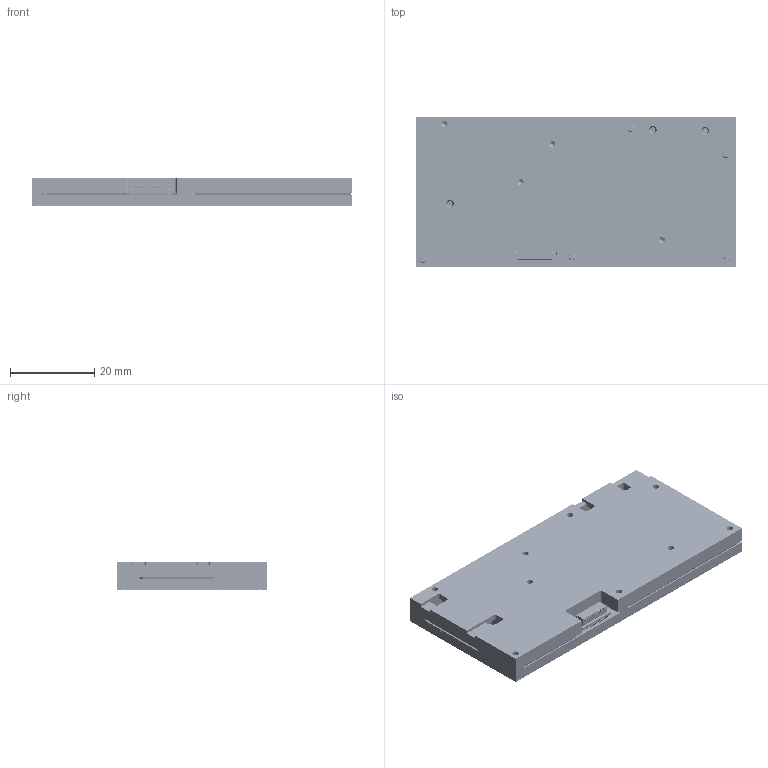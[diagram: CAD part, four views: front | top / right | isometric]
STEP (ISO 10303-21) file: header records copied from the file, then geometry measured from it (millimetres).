
FILE_DESCRIPTION(('FreeCAD Model'),'2;1');
FILE_NAME('C:/Users/Daniel/Dropbox (Atlanta Micro)/Designs/AM9030 0.1 - 18 GHz Transmit/Mechanical/Customer 3D Model/AM9030 Mechanical Model.step', '2021-11-22T15:56:30',('Author'),(''), 'Open CASCADE STEP processor 7.3','FreeCAD','Unknown');
FILE_SCHEMA(('AUTOMOTIVE_DESIGN { 1 0 10303 214 1 1 1 1 }'));
Length unit declared in the file: millimetre
Products named in the file (22): Flat_Head_1-72_5_16_Screw_014; Flat_Head_1-72_5_16_Screw_009; Flat_Head_1-72_5_16_Screw_012; Flat_Head_1-72_5_16_Screw_007; Flat_Head_1-72_5_16_Screw_018; Flat_Head_1-72_5_16_Screw_013; Flat_Head_1-72_5_16_Screw_008; Flat_Head_1-72_5_16_Screw_010; Flat_Head_1-72_5_16_Screw_017; Flat_Head_1-72_5_16_Screw_019; Flat_Head_1-72_5_16_Screw_015; Flat_Head_1-72_5_16_Screw_011; Flat_Head_1-72_5_16_Screw_016; Bottom_Cover_001; AMPCB9030_Rev11_001; Flat_Head_1-72_5_16_Screw_001; Flat_Head_1-72_5_16_Screw_003; Flat_Head_1-72_5_16_Screw_004; Flat_Head_1-72_5_16_Screw_006; Top_Cover_001; Flat_Head_1-72_5_16_Screw_005; Flat_Head_1-72_5_16_Screw_002
Bounding box: 76.29 x 35.74 x 6.73 mm (x, y, z)
Volume: 3738.9 mm3; surface area: 25921.1 mm2
Topology: 63 solids, 79 shells, 5342 faces, 20000 edges, 14833 vertices
Faces by surface type: revolution 1927, bspline 1311, plane 1247, cylinder 730, cone 124, torus 3
Full cylindrical faces by diameter (mm): 0.272 x3, 0.282 x3, 0.432 x3, 0.508 x6, 1.196 x3
Entity records: 596668 total; most frequent: CARTESIAN_POINT 243577, ORIENTED_EDGE 39621, PCURVE 39621, DEFINITIONAL_REPRESENTATION 39621, B_SPLINE_CURVE_WITH_KNOTS 37040, DIRECTION 33008, EDGE_CURVE 19918, SURFACE_CURVE 19891
